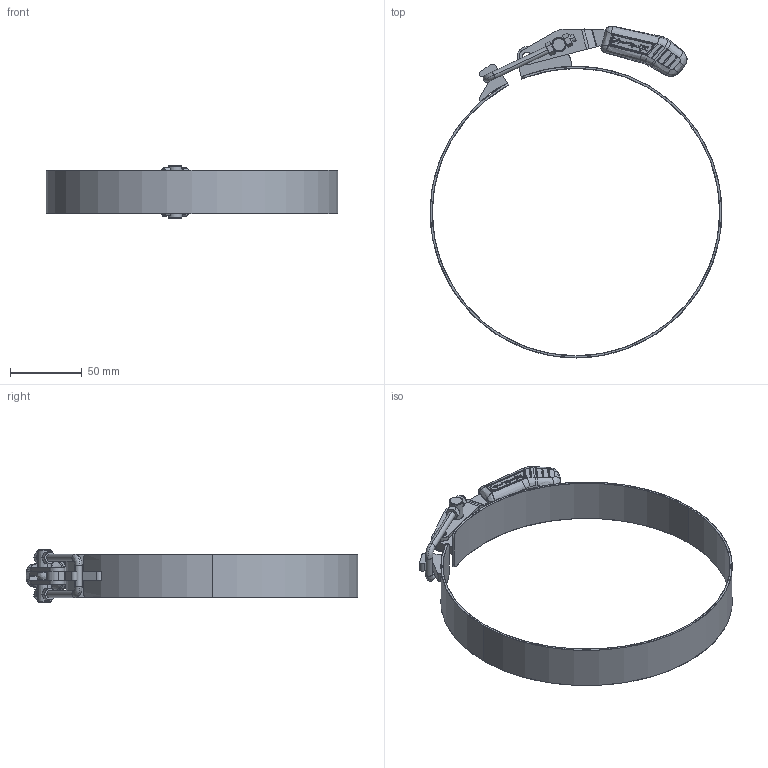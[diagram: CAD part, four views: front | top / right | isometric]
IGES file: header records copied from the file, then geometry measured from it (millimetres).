
Start section: SolidWorks IGES file using analytic representation for surfaces
Global section: file name: P:\SITE KIFIX\KF-743 CT200\KF-743 CT D200.IGS; native system: SolidWorks 2019; preprocessor: SolidWorks 2019; author: adriano; date: 200727.172125; units: millimetre
Bounding box: 203 x 231 x 37 mm (x, y, z)
Surface area: 60232.6 mm2 (no closed solid volume)
Topology: 0 solids, 0 shells, 848 faces, 7595 edges, 7542 vertices
Faces by surface type: bspline 496, revolution 352
